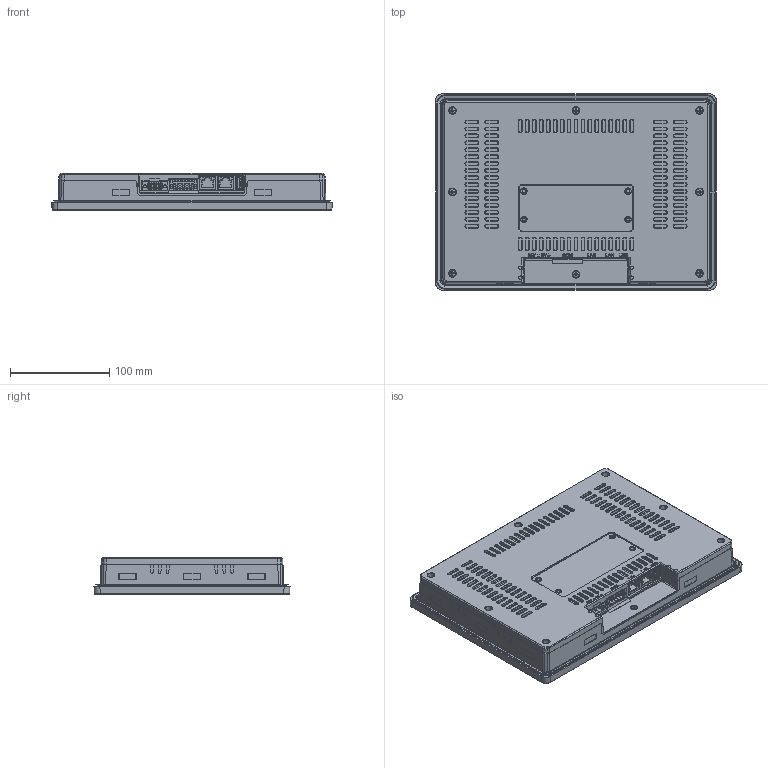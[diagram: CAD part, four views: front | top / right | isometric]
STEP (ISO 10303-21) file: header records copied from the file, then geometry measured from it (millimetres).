
FILE_DESCRIPTION (( 'STEP AP214' ), '1' );
FILE_NAME ('HMeX210 Standard.STEP', '2024-02-16T08:28:39', ( '' ), ( '' ), 'SwSTEP 2.0', 'SolidWorks 2023', '' );
FILE_SCHEMA (( 'AUTOMOTIVE_DESIGN' ));
Products named in the file (1): HMeX210 Standard
Bounding box: 282.56 x 197.56 x 37.85 mm (x, y, z)
Volume: 1834111.1 mm3; surface area: 180146.6 mm2
Topology: 1 solids, 23 shells, 4554 faces, 11793 edges, 7398 vertices
Faces by surface type: plane 2468, cylinder 883, bspline 407, cone 378, torus 352, sphere 66
Entity records: 148295 total; most frequent: CARTESIAN_POINT 39694, ORIENTED_EDGE 23474, DIRECTION 21403, EDGE_CURVE 11737, VECTOR 7645, LINE 7645, VERTEX_POINT 7398, AXIS2_PLACEMENT_3D 6879
